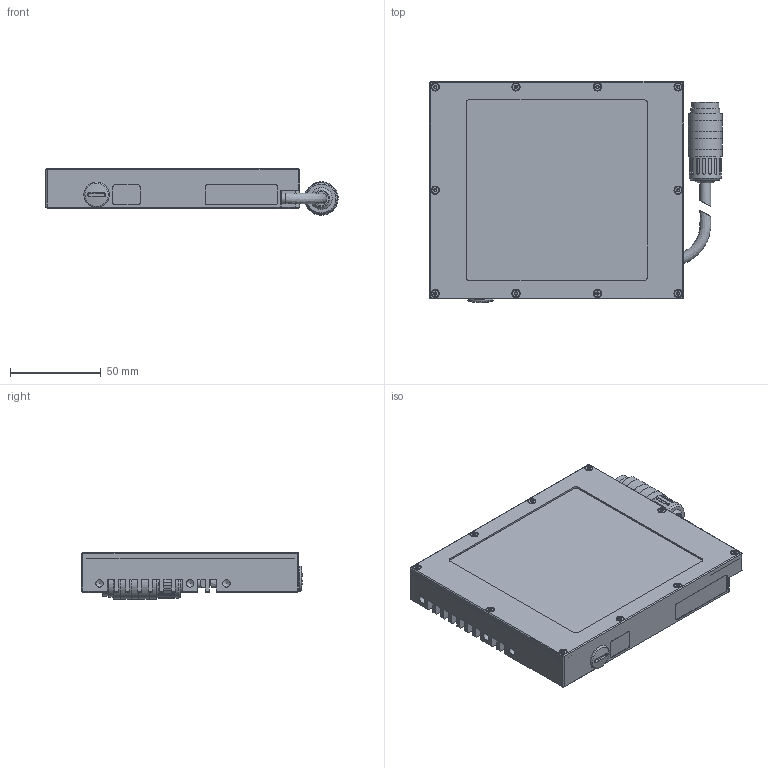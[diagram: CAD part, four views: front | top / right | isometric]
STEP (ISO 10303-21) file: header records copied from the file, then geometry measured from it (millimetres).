
FILE_DESCRIPTION(/* description */ (''),/* implementation_level */ '2;1');
FILE_NAME(/* name */ 'LG1010-LG1010FL-V02',/* time_stamp */ '2022-01-21T09:48:39+01:00',/* author */ (''),/* organization */ ('iiM AG'),/* preprocessor_version */ 'ST-DEVELOPER v16.7',/* originating_system */ 'DEX',/* authorisation */ $);
FILE_SCHEMA (('CONFIG_CONTROL_DESIGN'));
Length unit declared in the file: millimetre
Products named in the file (1): LG1010-V02_MO
Bounding box: 161.29 x 121.97 x 25.79 mm (x, y, z)
Volume: 177288.8 mm3; surface area: 115486.3 mm2
Topology: 3 solids, 13 shells, 906 faces, 2407 edges, 1542 vertices
Faces by surface type: plane 374, cylinder 343, cone 145, bspline 18, torus 13, sphere 13
Full cylindrical faces by diameter (mm): 1 x12, 1.567 x20, 2 x10, 2.1 x6, 2.11 x4, 2.459 x4, 3.8 x10, 4.134 x20, 5.2 x1, 6 x2, 6.2 x1, 8 x1, 9 x1, 11 x3, 11.89 x1, 14 x1, 15 x1, 16 x1, 17.5 x1, 18.5 x3, 18.6 x2
Entity records: 38217 total; most frequent: CARTESIAN_POINT 11459, ORIENTED_EDGE 4090, DIRECTION 4037, EDGE_CURVE 2045, AXIS2_PLACEMENT_3D 1552, VERTEX_POINT 1426, FACE_BOUND 1195, EDGE_LOOP 1165
